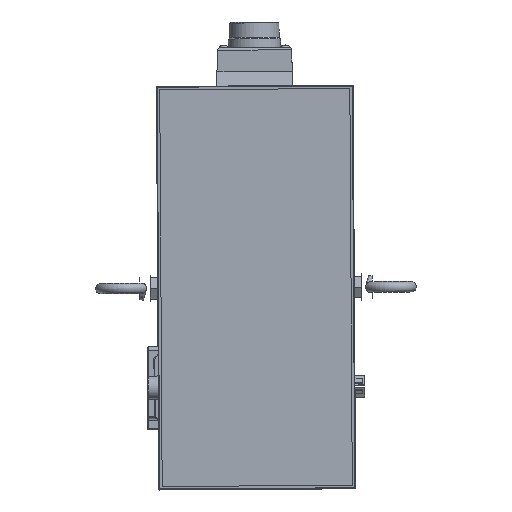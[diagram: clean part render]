
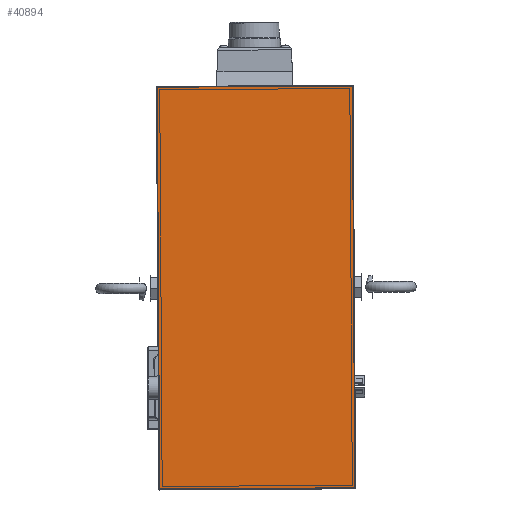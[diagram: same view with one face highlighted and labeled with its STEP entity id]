
A CAD part, top view. The second image highlights one B-rep face of the part: STEP entity #40894.
In plain terms, the highlighted planar face has unit normal (0, 0, 1).
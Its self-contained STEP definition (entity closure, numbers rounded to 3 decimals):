
#1679=PLANE('',#44187);
#5363=FACE_OUTER_BOUND('',#7806,.T.);
#7806=EDGE_LOOP('',(#31514,#31515,#31516,#31517));
#12736=LINE('',#64347,#15720);
#12737=LINE('',#64349,#15721);
#12738=LINE('',#64351,#15722);
#12739=LINE('',#64352,#15723);
#15720=VECTOR('',#51372,10.);
#15721=VECTOR('',#51373,10.);
#15722=VECTOR('',#51374,10.);
#15723=VECTOR('',#51375,10.);
#19327=VERTEX_POINT('',#64345);
#19328=VERTEX_POINT('',#64346);
#19329=VERTEX_POINT('',#64348);
#19330=VERTEX_POINT('',#64350);
#23833=EDGE_CURVE('',#19327,#19328,#12736,.T.);
#23834=EDGE_CURVE('',#19329,#19327,#12737,.T.);
#23835=EDGE_CURVE('',#19330,#19329,#12738,.T.);
#23836=EDGE_CURVE('',#19328,#19330,#12739,.T.);
#31514=ORIENTED_EDGE('',*,*,#23833,.F.);
#31515=ORIENTED_EDGE('',*,*,#23834,.F.);
#31516=ORIENTED_EDGE('',*,*,#23835,.F.);
#31517=ORIENTED_EDGE('',*,*,#23836,.F.);
#40894=ADVANCED_FACE('',(#5363),#1679,.T.);
#44187=AXIS2_PLACEMENT_3D('',#64344,#51370,#51371);
#51370=DIRECTION('center_axis',(0.,0.,
1.));
#51371=DIRECTION('ref_axis',(0.006,-1.,0.));
#51372=DIRECTION('',(-0.006,1.,0.));
#51373=DIRECTION('',(-1.,-0.006,0.));
#51374=DIRECTION('',(0.006,-1.,0.));
#51375=DIRECTION('',(1.,0.006,0.));
#64344=CARTESIAN_POINT('Origin',(57.867,-59.646,623.));
#64345=CARTESIAN_POINT('',(-58.622,-61.861,623.));
#64346=CARTESIAN_POINT('',(-60.112,181.135,623.));
#64347=CARTESIAN_POINT('',(-58.631,-60.361,623.));
#64348=CARTESIAN_POINT('',(59.376,-61.137,623.));
#64349=CARTESIAN_POINT('',(29.127,-61.322,623.));
#64350=CARTESIAN_POINT('',(57.886,181.858,623.));
#64351=CARTESIAN_POINT('',(59.367,-59.637,623.));
#64352=CARTESIAN_POINT('',(27.636,181.673,623.));
